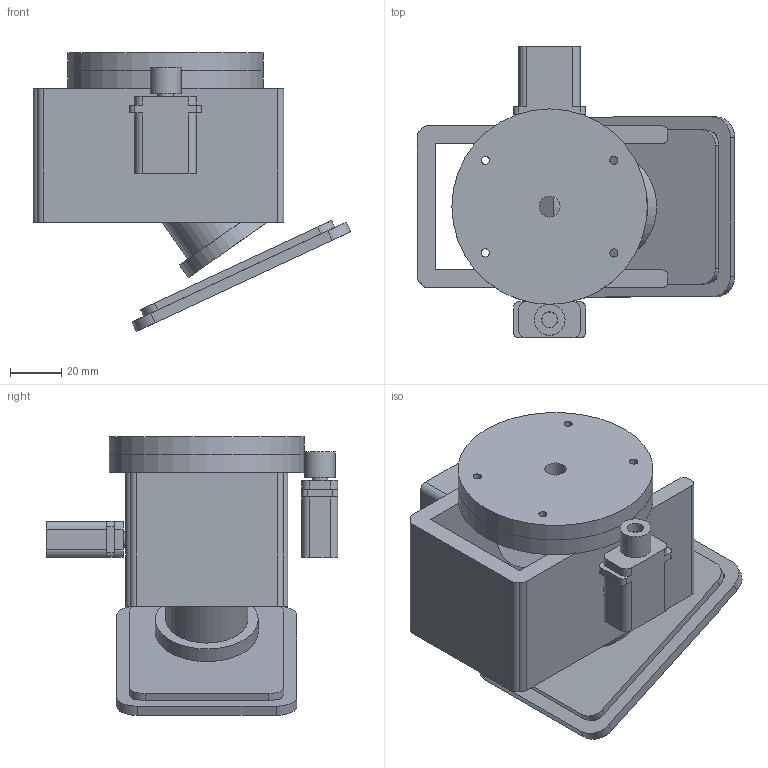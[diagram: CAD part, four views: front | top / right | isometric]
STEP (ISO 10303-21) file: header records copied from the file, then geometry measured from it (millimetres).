
FILE_DESCRIPTION(('Open CASCADE Model'),'2;1');
FILE_NAME('Open CASCADE Shape Model','2026-09-16T16:54:28',('Author'),( 'Open CASCADE'),'Open CASCADE STEP processor 7.8','Open CASCADE 7.8' ,'Unknown');
FILE_SCHEMA(('AUTOMOTIVE_DESIGN { 1 0 10303 214 1 1 1 1 }'));
Length unit declared in the file: millimetre
Products named in the file (8): laser_internal_gimbal_service_view; optical_window; window_retainer; pan_plate; tilt_yoke; emitter_cartridge; pan_servo_proxy; pan_drive_pinion
Assembly tree (8 placements, depth 2):
  laser_internal_gimbal_service_view
    optical_window
    window_retainer
    pan_plate
    tilt_yoke
    emitter_cartridge
    pan_servo_proxy  x2
    pan_drive_pinion
Bounding box: 123.54 x 113.5 x 108.45 mm (x, y, z)
Volume: 250329.8 mm3; surface area: 77286.9 mm2
Topology: 8 solids, 8 shells, 139 faces, 346 edges, 230 vertices
Faces by surface type: cylinder 74, plane 65
Full cylindrical faces by diameter (mm): 3.2 x4, 6 x2, 6.2 x1, 8.2 x2, 10.2 x2, 10.6 x2, 12 x1, 16 x2, 32 x1, 40 x1, 76 x2
Entity records: 7989 total; most frequent: CARTESIAN_POINT 2357, DIRECTION 1062, ORIENTED_EDGE 542, PCURVE 542, DEFINITIONAL_REPRESENTATION 542, LINE 529, VECTOR 529, EDGE_CURVE 271
